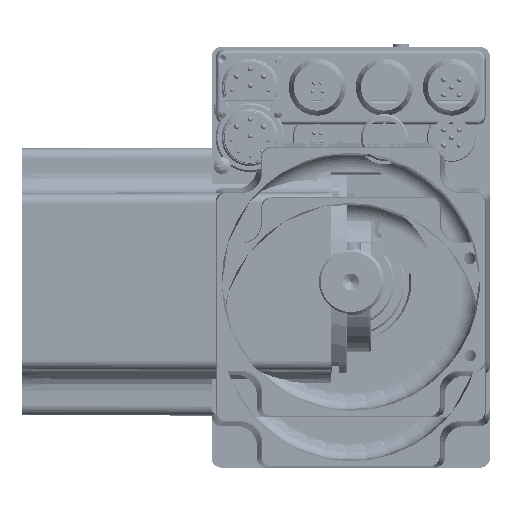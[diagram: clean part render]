
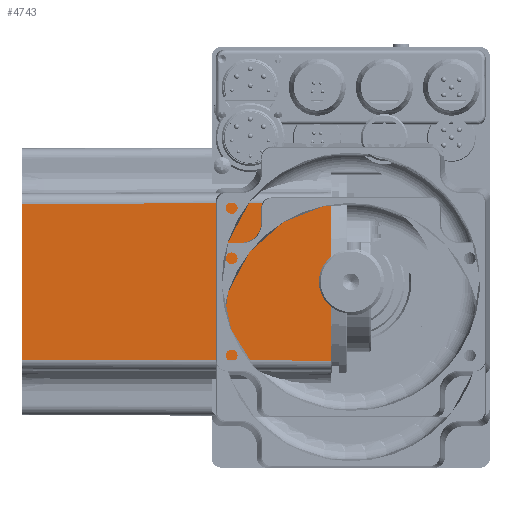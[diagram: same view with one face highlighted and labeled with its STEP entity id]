
A CAD part, front view. The second image highlights one B-rep face of the part: STEP entity #4743.
In plain terms, the highlighted planar face has unit normal (-0.003, -1, 0).
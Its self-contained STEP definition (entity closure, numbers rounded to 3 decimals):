
#4743 = ADVANCED_FACE( '', ( #9911 ), #9912, .T. );
#9911 = FACE_OUTER_BOUND( '', #23635, .T. );
#9912 = PLANE( '', #23636 );
#23635 = EDGE_LOOP( '', ( #36036, #36037, #36038, #36039 ) );
#23636 = AXIS2_PLACEMENT_3D( '', #36040, #36041, #36042 );
#36036 = ORIENTED_EDGE( '', *, *, #42856, .T. );
#36037 = ORIENTED_EDGE( '', *, *, #41615, .T. );
#36038 = ORIENTED_EDGE( '', *, *, #42553, .T. );
#36039 = ORIENTED_EDGE( '', *, *, #42498, .T. );
#36040 = CARTESIAN_POINT( '', ( -5., -40., 0. ) );
#36041 = DIRECTION( '', ( -0.003, -1., 0. ) );
#36042 = DIRECTION( '', ( 1., -0.003, 0. ) );
#41615 = EDGE_CURVE( '', #48580, #48578, #48581, .T. );
#42498 = EDGE_CURVE( '', #49742, #49740, #49743, .T. );
#42553 = EDGE_CURVE( '', #48578, #49742, #49809, .T. );
#42856 = EDGE_CURVE( '', #49740, #48580, #50166, .T. );
#48578 = VERTEX_POINT( '', #67907 );
#48580 = VERTEX_POINT( '', #67909 );
#48581 = LINE( '', #67910, #67911 );
#49740 = VERTEX_POINT( '', #70024 );
#49742 = VERTEX_POINT( '', #70026 );
#49743 = LINE( '', #70027, #70028 );
#49809 = LINE( '', #70153, #70154 );
#50166 = LINE( '', #70658, #70659 );
#67907 = CARTESIAN_POINT( '', ( -6., -39.997, 23.497 ) );
#67909 = CARTESIAN_POINT( '', ( -6., -39.997, -23.497 ) );
#67910 = CARTESIAN_POINT( '', ( -6., -39.997, 0. ) );
#67911 = VECTOR( '', #77344, 1000. );
#70024 = CARTESIAN_POINT( '', ( -98., -39.729, -23.229 ) );
#70026 = CARTESIAN_POINT( '', ( -98., -39.729, 23.229 ) );
#70027 = CARTESIAN_POINT( '', ( -98., -39.729, 0. ) );
#70028 = VECTOR( '', #78431, 1000. );
#70153 = CARTESIAN_POINT( '', ( -98.991, -39.727, 23.227 ) );
#70154 = VECTOR( '', #78496, 1000. );
#70658 = CARTESIAN_POINT( '', ( -4.991, -40., -23.5 ) );
#70659 = VECTOR( '', #78765, 1000. );
#77344 = DIRECTION( '', ( 0., 0., 1. ) );
#78431 = DIRECTION( '', ( 0., 0., -1. ) );
#78496 = DIRECTION( '', ( -1., 0.003, -0.003 ) );
#78765 = DIRECTION( '', ( 1., -0.003, -0.003 ) );
